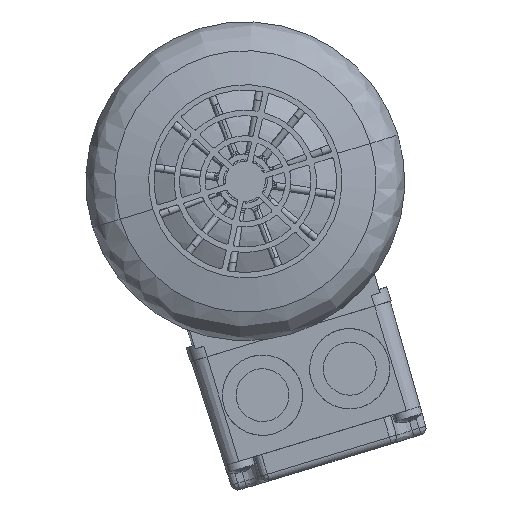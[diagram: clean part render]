
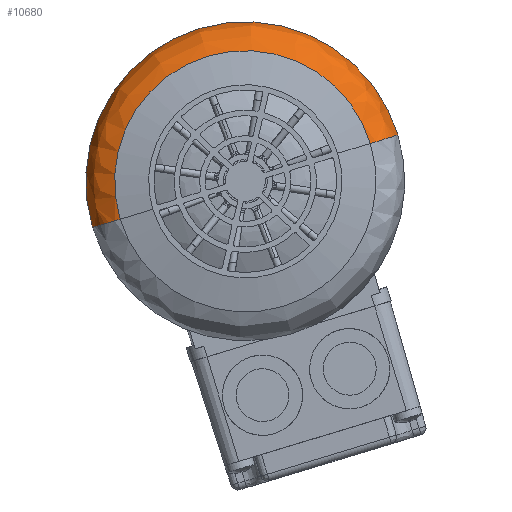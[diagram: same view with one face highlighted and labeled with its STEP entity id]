
A CAD part, left-side view. The second image highlights one B-rep face of the part: STEP entity #10680.
In plain terms, the highlighted free-form (B-spline) face has degree [3, 3] with [4, 4] control points.
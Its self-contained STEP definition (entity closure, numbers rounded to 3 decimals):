
#366 = DIRECTION ( 'NONE',  ( 1., 0., 0. ) ) ;
#552 = DIRECTION ( 'NONE',  ( 0., 1., 0. ) ) ;
#645 = CARTESIAN_POINT ( 'NONE',  ( 33.75, 0., -131.736 ) ) ;
#834 = ORIENTED_EDGE ( 'NONE', *, *, #62573, .F. ) ;
#5008 = VERTEX_POINT ( 'NONE', #28745 ) ;
#8776 = ORIENTED_EDGE ( 'NONE', *, *, #60961, .T. ) ;
#9906 =( BOUNDED_SURFACE ( )  B_SPLINE_SURFACE ( 3, 3, ( 
 ( #73494, #71766, #71657, #71572 ),
 ( #71475, #71462, #71356, #71259 ),
 ( #71194, #71076, #70997, #70981 ),
 ( #70909, #70889, #70787, #70621 ) ),
 .UNSPECIFIED., .F., .F., .T. ) 
 B_SPLINE_SURFACE_WITH_KNOTS ( ( 4, 4 ),
 ( 4, 4 ),
 ( 0., 1. ),
 ( 0., 1. ),
 .UNSPECIFIED. ) 
 GEOMETRIC_REPRESENTATION_ITEM ( )  RATIONAL_B_SPLINE_SURFACE ( (
 ( 1., 0.333, 0.333, 1.),
 ( 0.851, 0.284, 0.284, 0.851),
 ( 0.851, 0.284, 0.284, 0.851),
 ( 1., 0.333, 0.333, 1.) ) ) 
 REPRESENTATION_ITEM ( '' )  SURFACE ( )  );
#10328 = CIRCLE ( 'NONE', #81426, 43.75 ) ;
#10680 = ADVANCED_FACE ( 'NONE', ( #20092 ), #9906, .T. ) ;
#18119 = EDGE_CURVE ( 'NONE', #22605, #5008, #26647, .T. ) ;
#18634 = EDGE_CURVE ( 'NONE', #65876, #5008, #51442, .T. ) ;
#20092 = FACE_OUTER_BOUND ( 'NONE', #32807, .T. ) ;
#21474 = DIRECTION ( 'NONE',  ( 1., 0., 0. ) ) ;
#21486 = DIRECTION ( 'NONE',  ( 0., 0., 1. ) ) ;
#21588 = CARTESIAN_POINT ( 'NONE',  ( 0., 0., -141.517 ) ) ;
#22605 = VERTEX_POINT ( 'NONE', #62855 ) ;
#25025 = CARTESIAN_POINT ( 'NONE',  ( 0., 0., -131.736 ) ) ;
#26647 = CIRCLE ( 'NONE', #41297, 35.829 ) ;
#28745 = CARTESIAN_POINT ( 'NONE',  ( 35.829, 0., -141.517 ) ) ;
#31673 = DIRECTION ( 'NONE',  ( 1., 0., 0. ) ) ;
#32227 = ORIENTED_EDGE ( 'NONE', *, *, #18119, .T. ) ;
#32807 = EDGE_LOOP ( 'NONE', ( #834, #8776, #32227, #44137 ) ) ;
#33756 = CARTESIAN_POINT ( 'NONE',  ( 43.75, 0., -131.736 ) ) ;
#37836 = CIRCLE ( 'NONE', #84580, 10. ) ;
#39524 = DIRECTION ( 'NONE',  ( 0., -1., 0. ) ) ;
#41297 = AXIS2_PLACEMENT_3D ( 'NONE', #21588, #21486, #21474 ) ;
#44137 = ORIENTED_EDGE ( 'NONE', *, *, #18634, .F. ) ;
#45571 = VERTEX_POINT ( 'NONE', #72216 ) ;
#51442 = CIRCLE ( 'NONE', #78021, 10. ) ;
#60961 = EDGE_CURVE ( 'NONE', #45571, #22605, #37836, .T. ) ;
#62573 = EDGE_CURVE ( 'NONE', #45571, #65876, #10328, .T. ) ;
#62855 = CARTESIAN_POINT ( 'NONE',  ( -35.829, 0., -141.517 ) ) ;
#65876 = VERTEX_POINT ( 'NONE', #33756 ) ;
#70621 = CARTESIAN_POINT ( 'NONE',  ( 35.829, 0., -141.517 ) ) ;
#70787 = CARTESIAN_POINT ( 'NONE',  ( 35.829, -71.658, -141.517 ) ) ;
#70889 = CARTESIAN_POINT ( 'NONE',  ( -35.829, -71.658, -141.517 ) ) ;
#70909 = CARTESIAN_POINT ( 'NONE',  ( -35.829, 0., -141.517 ) ) ;
#70981 = CARTESIAN_POINT ( 'NONE',  ( 40.649, 0., -140.493 ) ) ;
#70997 = CARTESIAN_POINT ( 'NONE',  ( 40.649, -81.298, -140.493 ) ) ;
#71076 = CARTESIAN_POINT ( 'NONE',  ( -40.649, -81.298, -140.493 ) ) ;
#71194 = CARTESIAN_POINT ( 'NONE',  ( -40.649, 0., -140.493 ) ) ;
#71259 = CARTESIAN_POINT ( 'NONE',  ( 43.75, 0., -136.663 ) ) ;
#71356 = CARTESIAN_POINT ( 'NONE',  ( 43.75, -87.5, -136.663 ) ) ;
#71429 = DIRECTION ( 'NONE',  ( 0., 0., 1. ) ) ;
#71462 = CARTESIAN_POINT ( 'NONE',  ( -43.75, -87.5, -136.663 ) ) ;
#71475 = CARTESIAN_POINT ( 'NONE',  ( -43.75, 0., -136.663 ) ) ;
#71572 = CARTESIAN_POINT ( 'NONE',  ( 43.75, 0., -131.736 ) ) ;
#71657 = CARTESIAN_POINT ( 'NONE',  ( 43.75, -87.5, -131.736 ) ) ;
#71766 = CARTESIAN_POINT ( 'NONE',  ( -43.75, -87.5, -131.736 ) ) ;
#72216 = CARTESIAN_POINT ( 'NONE',  ( -43.75, 0., -131.736 ) ) ;
#73494 = CARTESIAN_POINT ( 'NONE',  ( -43.75, 0., -131.736 ) ) ;
#78021 = AXIS2_PLACEMENT_3D ( 'NONE', #645, #552, #366 ) ;
#79278 = CARTESIAN_POINT ( 'NONE',  ( -33.75, 0., -131.736 ) ) ;
#81426 = AXIS2_PLACEMENT_3D ( 'NONE', #25025, #71429, #31673 ) ;
#84580 = AXIS2_PLACEMENT_3D ( 'NONE', #79278, #39524, #85934 ) ;
#85934 = DIRECTION ( 'NONE',  ( -1., 0., 0. ) ) ;
